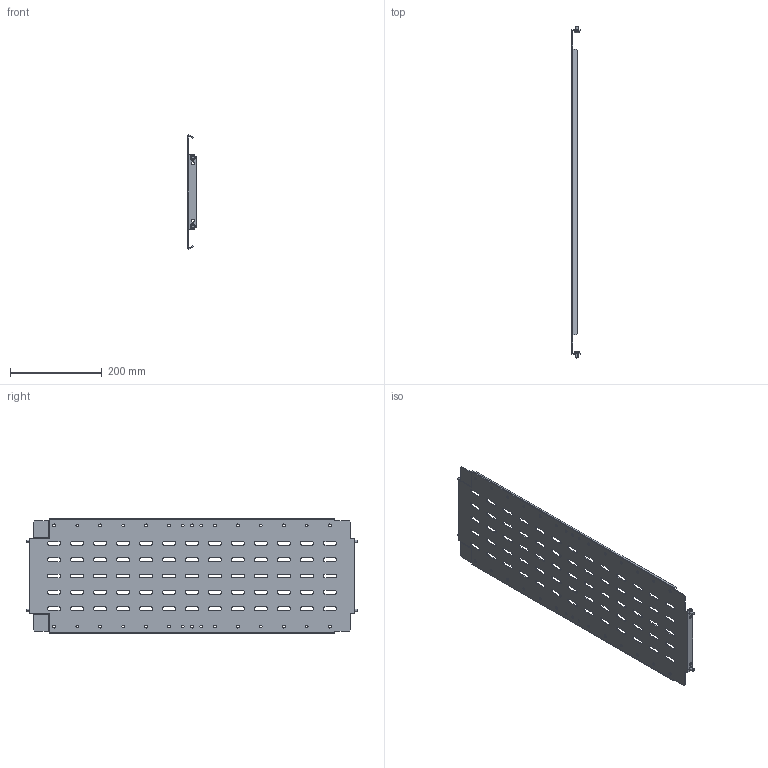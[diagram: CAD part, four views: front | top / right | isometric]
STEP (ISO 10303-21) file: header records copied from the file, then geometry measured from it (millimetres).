
FILE_DESCRIPTION (( 'STEP AP214' ), '1' );
FILE_NAME ('FO-00-SWV-025-080 Ïåðåãîðîäêà ñåêöèîíèðîâàíèÿ âåðòèêàëüíàÿ 250õ800 ìì.STEP', '2025-08-11T10:37:28', ( '' ), ( '' ), 'SwSTEP 2.0', 'SolidWorks 2023', '' );
FILE_SCHEMA (( 'AUTOMOTIVE_DESIGN' ));
Length unit declared in the file: millimetre
Products named in the file (1): FO-00-SWV-025-080 Перегородка секционирования вертикальная 250х800 мм
Bounding box: 17.5 x 722.5 x 248.93 mm (x, y, z)
Volume: 267162.8 mm3; surface area: 365892.4 mm2
Topology: 1 solids, 1 shells, 488 faces, 1386 edges, 916 vertices
Faces by surface type: plane 242, cylinder 222, torus 16, cone 8
Entity records: 16397 total; most frequent: DIRECTION 2848, CARTESIAN_POINT 2791, ORIENTED_EDGE 2772, EDGE_CURVE 1386, AXIS2_PLACEMENT_3D 973, VERTEX_POINT 916, LINE 902, VECTOR 902
